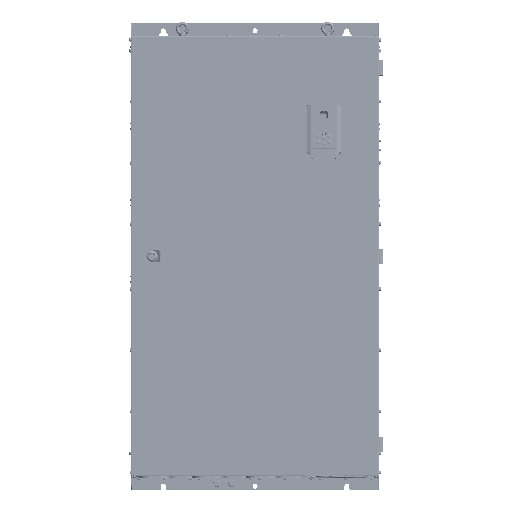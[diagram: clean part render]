
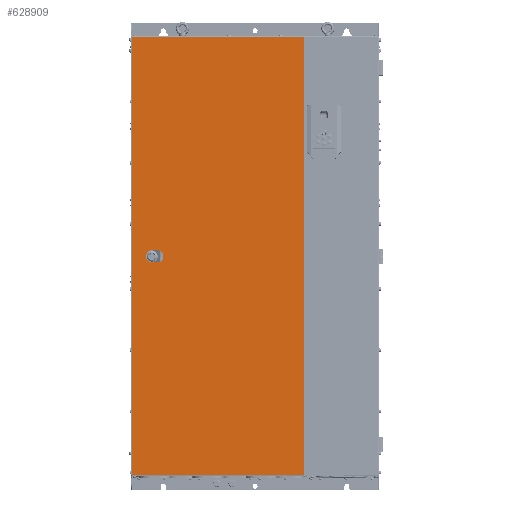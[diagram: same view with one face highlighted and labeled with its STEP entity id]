
A CAD part, top view. The second image highlights one B-rep face of the part: STEP entity #628909.
In plain terms, the highlighted planar face has unit normal (0, 0, 1).
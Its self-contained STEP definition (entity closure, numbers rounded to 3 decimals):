
#626816=DIRECTION('',(0.,-1.,0.));
#626817=VECTOR('',#626816,1145.05);
#626818=CARTESIAN_POINT('',(-322.25,1147.75,10.5));
#626819=LINE('',#626818,#626817);
#627184=DIRECTION('',(1.,0.,0.));
#627185=VECTOR('',#627184,449.25);
#627186=CARTESIAN_POINT('',(-322.25,2.7,10.5));
#627187=LINE('',#627186,#627185);
#627245=DIRECTION('',(1.,0.,0.));
#627246=VECTOR('',#627245,10.308);
#627247=CARTESIAN_POINT('',(-274.654,585.,10.5));
#627248=LINE('',#627247,#627246);
#627252=CARTESIAN_POINT('',(-269.5,575.,10.5));
#627253=DIRECTION('',(0.,0.,1.));
#627254=DIRECTION('',(-0.458,0.889,0.));
#627255=AXIS2_PLACEMENT_3D('',#627252,#627253,#627254);
#627260=DIRECTION('',(0.,1.,0.));
#627261=VECTOR('',#627260,10.308);
#627262=CARTESIAN_POINT('',(-279.5,569.846,10.5));
#627263=LINE('',#627262,#627261);
#627267=CARTESIAN_POINT('',(-269.5,575.,10.5));
#627268=DIRECTION('',(0.,0.,1.));
#627269=DIRECTION('',(-0.889,-0.458,0.));
#627270=AXIS2_PLACEMENT_3D('',#627267,#627268,#627269);
#627275=DIRECTION('',(-1.,0.,0.));
#627276=VECTOR('',#627275,10.308);
#627277=CARTESIAN_POINT('',(-264.346,565.,10.5));
#627278=LINE('',#627277,#627276);
#627282=CARTESIAN_POINT('',(-269.5,575.,10.5));
#627283=DIRECTION('',(0.,0.,1.));
#627284=DIRECTION('',(0.458,-0.889,0.));
#627285=AXIS2_PLACEMENT_3D('',#627282,#627283,#627284);
#627290=DIRECTION('',(0.,-1.,0.));
#627291=VECTOR('',#627290,10.308);
#627292=CARTESIAN_POINT('',(-259.5,580.154,10.5));
#627293=LINE('',#627292,#627291);
#627297=CARTESIAN_POINT('',(-269.5,575.,10.5));
#627298=DIRECTION('',(0.,0.,1.));
#627299=DIRECTION('',(0.889,0.458,0.));
#627300=AXIS2_PLACEMENT_3D('',#627297,#627298,#627299);
#627305=DIRECTION('',(0.,-1.,0.));
#627306=VECTOR('',#627305,1145.05);
#627307=CARTESIAN_POINT('',(127.,1147.75,10.5));
#627308=LINE('',#627307,#627306);
#627390=DIRECTION('',(1.,0.,0.));
#627391=VECTOR('',#627390,449.25);
#627392=CARTESIAN_POINT('',(-322.25,1147.75,10.5));
#627393=LINE('',#627392,#627391);
#628228=CARTESIAN_POINT('',(-322.25,1147.75,10.5));
#628229=CARTESIAN_POINT('',(-322.25,2.7,10.5));
#628230=VERTEX_POINT('',#628228);
#628231=VERTEX_POINT('',#628229);
#628341=CARTESIAN_POINT('',(-274.654,585.,10.5));
#628342=CARTESIAN_POINT('',(-264.346,585.,10.5));
#628343=VERTEX_POINT('',#628341);
#628344=VERTEX_POINT('',#628342);
#628345=CARTESIAN_POINT('',(-259.5,580.154,10.5));
#628346=VERTEX_POINT('',#628345);
#628347=CARTESIAN_POINT('',(-259.5,569.846,10.5));
#628348=VERTEX_POINT('',#628347);
#628349=CARTESIAN_POINT('',(-264.346,565.,10.5));
#628350=VERTEX_POINT('',#628349);
#628351=CARTESIAN_POINT('',(-274.654,565.,10.5));
#628352=VERTEX_POINT('',#628351);
#628353=CARTESIAN_POINT('',(-279.5,569.846,10.5));
#628354=VERTEX_POINT('',#628353);
#628355=CARTESIAN_POINT('',(-279.5,580.154,10.5));
#628356=VERTEX_POINT('',#628355);
#628373=CARTESIAN_POINT('',(127.,1147.75,10.5));
#628374=CARTESIAN_POINT('',(127.,2.7,10.5));
#628375=VERTEX_POINT('',#628373);
#628376=VERTEX_POINT('',#628374);
#628879=CARTESIAN_POINT('',(-324.5,1150.,10.5));
#628880=DIRECTION('',(0.,0.,1.));
#628881=DIRECTION('',(0.,-1.,0.));
#628882=AXIS2_PLACEMENT_3D('',#628879,#628880,#628881);
#628883=PLANE('',#628882);
#628884=ORIENTED_EDGE('',*,*,#628870,.T.);
#628885=ORIENTED_EDGE('',*,*,#628809,.F.);
#628886=ORIENTED_EDGE('',*,*,#628561,.F.);
#628888=ORIENTED_EDGE('',*,*,#628887,.T.);
#628889=EDGE_LOOP('',(#628884,#628885,#628886,#628888));
#628890=FACE_OUTER_BOUND('',#628889,.F.);
#628892=ORIENTED_EDGE('',*,*,#628891,.F.);
#628894=ORIENTED_EDGE('',*,*,#628893,.T.);
#628896=ORIENTED_EDGE('',*,*,#628895,.F.);
#628898=ORIENTED_EDGE('',*,*,#628897,.T.);
#628900=ORIENTED_EDGE('',*,*,#628899,.F.);
#628902=ORIENTED_EDGE('',*,*,#628901,.T.);
#628904=ORIENTED_EDGE('',*,*,#628903,.F.);
#628906=ORIENTED_EDGE('',*,*,#628905,.T.);
#628907=EDGE_LOOP('',(#628892,#628894,#628896,#628898,#628900,#628902,#628904,
#628906));
#628908=FACE_BOUND('',#628907,.F.);
#628909=ADVANCED_FACE('',(#628890,#628908),#628883,.T.);
#627256=CIRCLE('',#627255,11.25);
#627271=CIRCLE('',#627270,11.25);
#627286=CIRCLE('',#627285,11.25);
#627301=CIRCLE('',#627300,11.25);
#628561=EDGE_CURVE('',#628230,#628231,#626819,.T.);
#628809=EDGE_CURVE('',#628231,#628376,#627187,.T.);
#628870=EDGE_CURVE('',#628375,#628376,#627308,.T.);
#628887=EDGE_CURVE('',#628230,#628375,#627393,.T.);
#628891=EDGE_CURVE('',#628343,#628344,#627248,.T.);
#628893=EDGE_CURVE('',#628343,#628356,#627256,.T.);
#628895=EDGE_CURVE('',#628354,#628356,#627263,.T.);
#628897=EDGE_CURVE('',#628354,#628352,#627271,.T.);
#628899=EDGE_CURVE('',#628350,#628352,#627278,.T.);
#628901=EDGE_CURVE('',#628350,#628348,#627286,.T.);
#628903=EDGE_CURVE('',#628346,#628348,#627293,.T.);
#628905=EDGE_CURVE('',#628346,#628344,#627301,.T.);
